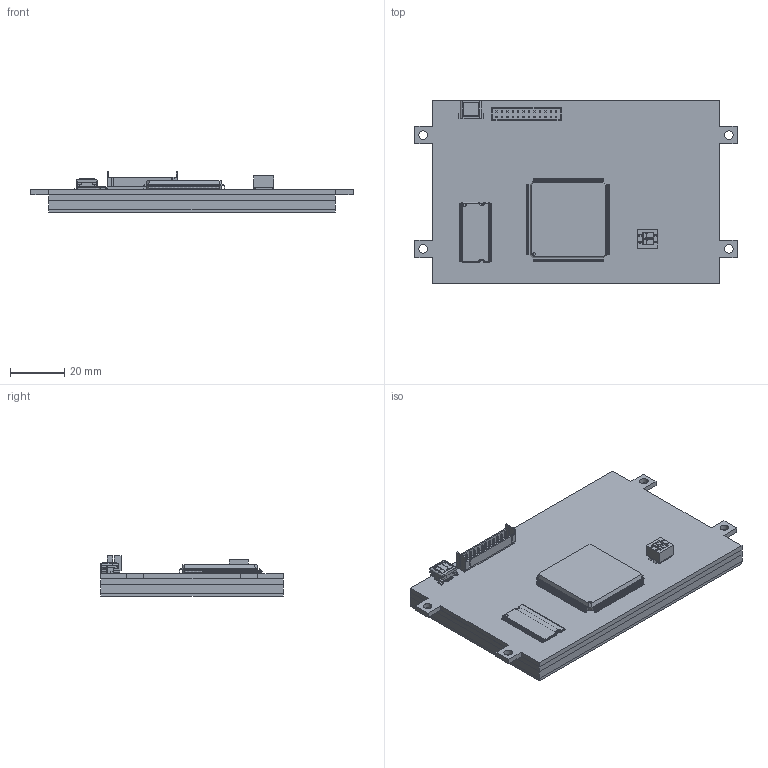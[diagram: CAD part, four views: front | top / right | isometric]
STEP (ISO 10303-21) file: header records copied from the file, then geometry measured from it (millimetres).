
FILE_DESCRIPTION(/* description */ (''),/* implementation_level */ '2;1');
FILE_NAME(/* name */ 'X:\NI ESD Enhanced Board\MK480272CE.stp',/* time_stamp */ '2014-06-04T17:24:44-07:00',/* author */ ('jgohata'),/* organization */ (''),/* preprocessor_version */ 'ST-DEVELOPER v15.2',/* originating_system */ 'Autodesk Inventor 2014',/* authorisation */ '');
FILE_SCHEMA (('CONFIG_CONTROL_DESIGN'));
Products named in the file (1): MK480272CE
Bounding box: 118.6 x 67.2 x 14.8 mm (x, y, z)
Surface area: 52510.5 mm2 (no closed solid volume)
Topology: 0 solids, 96 shells, 4923 faces, 13433 edges, 8885 vertices
Faces by surface type: plane 3536, cylinder 1308, bspline 58, cone 18, torus 3
Full cylindrical faces by diameter (mm): 1.187 x1, 3.15 x4
Entity records: 161029 total; most frequent: CARTESIAN_POINT 30013, ORIENTED_EDGE 26371, DIRECTION 25708, EDGE_CURVE 13423, LINE 10660, VECTOR 10660, VERTEX_POINT 8880, AXIS2_PLACEMENT_3D 7524
